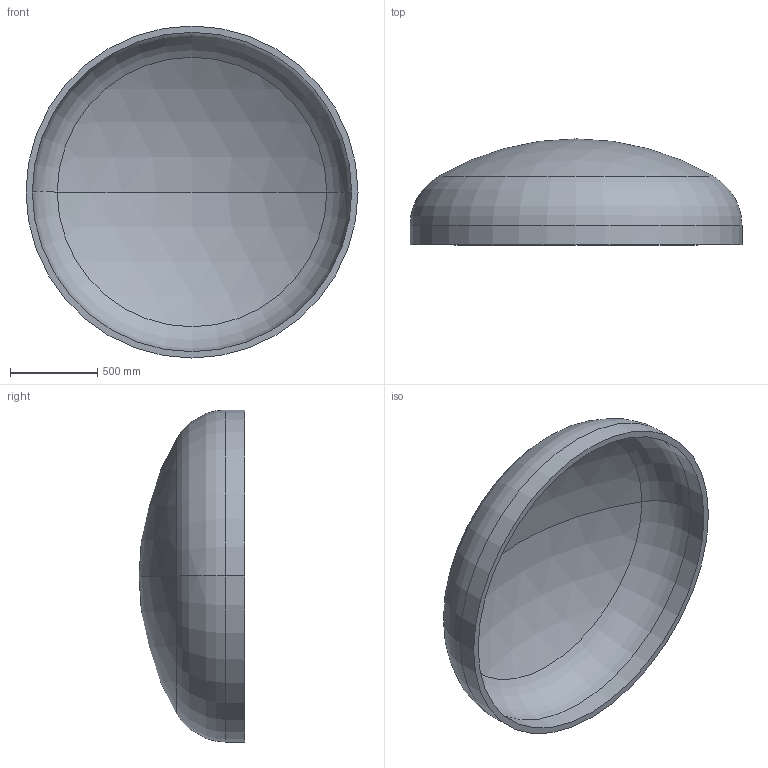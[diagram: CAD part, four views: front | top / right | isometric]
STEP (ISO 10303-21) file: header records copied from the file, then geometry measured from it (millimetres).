
FILE_DESCRIPTION (( 'STEP AP203' ), '1' );
FILE_NAME ('DIN 28013 Korbbogenform_-_Boden DIN 28013 - 1900 x 110 - I - s=36.step', '2016-07-01T13:06:44', ( '' ), ( '' ), 'SwSTEP 2.0', 'SolidWorks 2013', '' );
FILE_SCHEMA (( 'CONFIG_CONTROL_DESIGN' ));
Length unit declared in the file: millimetre
Products named in the file (1): DIN 28013 Korbbogenform_-_Boden DIN 28013 - 1900 x 110 - I - s=36
Bounding box: 1900 x 606.04 x 1900 mm (x, y, z)
Volume: 160827359.3 mm3; surface area: 9148378.1 mm2
Topology: 1 solids, 1 shells, 13 faces, 24 edges, 14 vertices
Faces by surface type: torus 4, cylinder 4, sphere 4, plane 1
Entity records: 407 total; most frequent: DIRECTION 72, CARTESIAN_POINT 52, ORIENTED_EDGE 48, AXIS2_PLACEMENT_3D 34, EDGE_CURVE 24, CIRCLE 20, EDGE_LOOP 14, VERTEX_POINT 14
